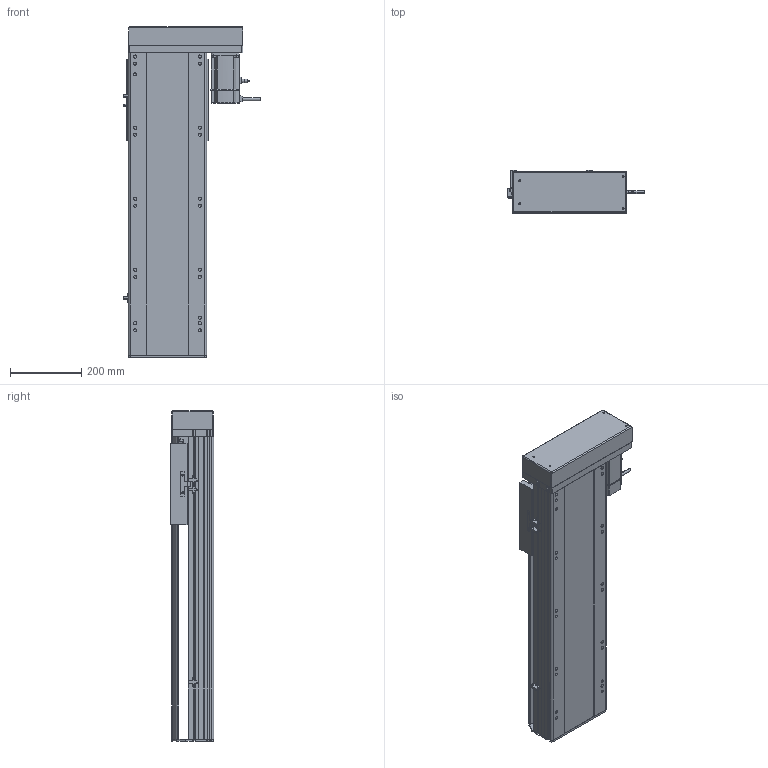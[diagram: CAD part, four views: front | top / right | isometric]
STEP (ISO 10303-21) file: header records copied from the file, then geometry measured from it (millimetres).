
FILE_DESCRIPTION (( 'STEP AP214' ), '1' );
FILE_NAME ('RTH22-XX-550-L-M75-C4.STEP', '2025-10-24T10:57:36', ( 'Microsoft' ), ( 'Microsoft' ), 'SwSTEP 2.0', 'SolidWorks 2018', '' );
FILE_SCHEMA (( 'AUTOMOTIVE_DESIGN' ));
Length unit declared in the file: millimetre
Products named in the file (10): N_RTH22-L-004-SFS25賑釱^RTH22-XX-XX-L-M75-C4; N_RTH22-L-018裔赽^RTH22-XX-XX-L-M75-C4; RTH22-XX-550-L-M75-C4; N_750W萇儂^RTH22-XX-XX-L-M75-C4; N_RTH22-GY-001耜裔^RTH22-XX-XX-L-M75-C4; N_RTH22-L-011菁釱^RTH22-XX-XX-L-M75-C4; N_OMRON EE-SX672 传感器^RTH22-XX-XX-L-M75-C4; N_RTH22-L-007奻裔^RTH22-XX-XX-L-M75-C4; N_RTH22-L-008-P75萇儂啣^RTH22-XX-XX-L-M75-C4; N_RTH22-GY-013外置感应片^RTH22-XX-XX-L-M75-C4
Assembly tree (11 placements, depth 2):
  RTH22-XX-550-L-M75-C4
    N_RTH22-L-011菁釱^RTH22-XX-XX-L-M75-C4
    N_RTH22-GY-001耜裔^RTH22-XX-XX-L-M75-C4
    N_750W萇儂^RTH22-XX-XX-L-M75-C4
    N_RTH22-L-008-P75萇儂啣^RTH22-XX-XX-L-M75-C4
    N_RTH22-L-007奻裔^RTH22-XX-XX-L-M75-C4
    N_RTH22-L-018裔赽^RTH22-XX-XX-L-M75-C4
    N_OMRON EE-SX672 传感器^RTH22-XX-XX-L-M75-C4  x3
    N_RTH22-GY-013外置感应片^RTH22-XX-XX-L-M75-C4
    N_RTH22-L-004-SFS25賑釱^RTH22-XX-XX-L-M75-C4
Bounding box: 384.7 x 122 x 929.7 mm (x, y, z)
Volume: 13644152.8 mm3; surface area: 1593514.4 mm2
Topology: 11 solids, 11 shells, 1570 faces, 4279 edges, 2761 vertices
Faces by surface type: plane 791, cylinder 446, bspline 279, cone 54
Entity records: 39019 total; most frequent: CARTESIAN_POINT 11966, ORIENTED_EDGE 5542, DIRECTION 5201, EDGE_CURVE 2771, VERTEX_POINT 1797, AXIS2_PLACEMENT_3D 1736, LINE 1729, VECTOR 1729
